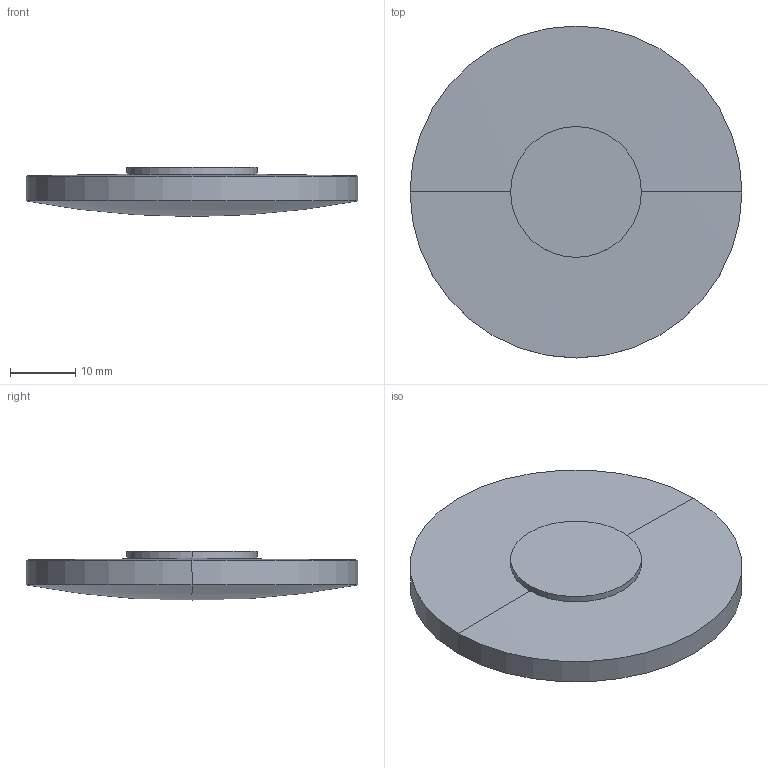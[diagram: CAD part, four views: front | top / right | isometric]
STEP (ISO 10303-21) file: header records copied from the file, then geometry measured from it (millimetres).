
FILE_DESCRIPTION(('STEP AP214'),'1');
FILE_NAME('LLV-51240.STEP','2020-03-09T17:42:26',(' '),(' '),'Spatial InterOp 3D',' ',' ');
FILE_SCHEMA(('AUTOMOTIVE_DESIGN { 1 0 10303 214 1 1 1 1 }'));
Length unit declared in the file: millimetre
Products named in the file (1): 1
Bounding box: 50.8 x 50.8 x 7.5 mm (x, y, z)
Volume: 10776 mm3; surface area: 5372 mm2
Topology: 2 solids, 2 shells, 10 faces, 20 edges, 10 vertices
Faces by surface type: sphere 4, cylinder 4, plane 2
Entity records: 255 total; most frequent: DIRECTION 52, CARTESIAN_POINT 38, ORIENTED_EDGE 32, AXIS2_PLACEMENT_3D 24, EDGE_CURVE 16, CIRCLE 12, ADVANCED_FACE 10, FACE_OUTER_BOUND 10
